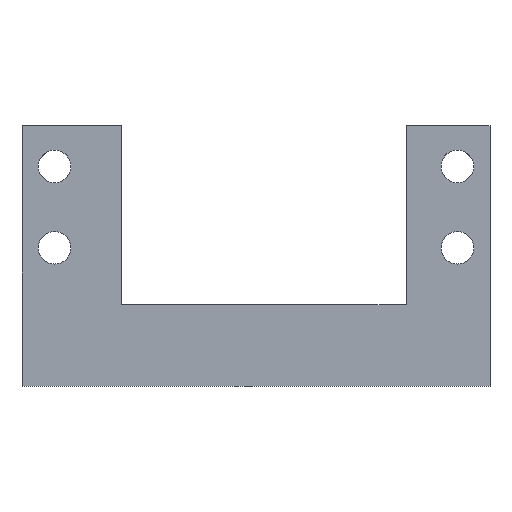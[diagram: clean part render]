
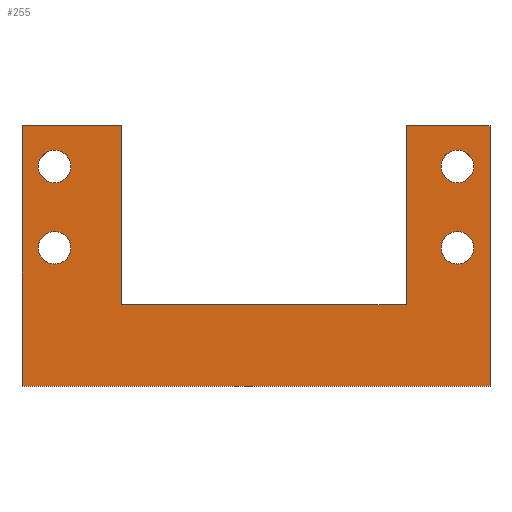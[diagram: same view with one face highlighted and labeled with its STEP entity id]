
A CAD part, top view. The second image highlights one B-rep face of the part: STEP entity #255.
In plain terms, the highlighted planar face has unit normal (0, 0, 1).
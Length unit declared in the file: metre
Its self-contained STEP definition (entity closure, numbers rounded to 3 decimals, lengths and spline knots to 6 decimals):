
#16=CIRCLE('',#283,0.002);
#17=CIRCLE('',#284,0.002);
#18=CIRCLE('',#285,0.002);
#19=CIRCLE('',#286,0.002);
#28=ORIENTED_EDGE('',*,*,#92,.F.);
#29=ORIENTED_EDGE('',*,*,#93,.F.);
#30=ORIENTED_EDGE('',*,*,#94,.T.);
#31=ORIENTED_EDGE('',*,*,#95,.T.);
#32=ORIENTED_EDGE('',*,*,#96,.F.);
#33=ORIENTED_EDGE('',*,*,#97,.T.);
#34=ORIENTED_EDGE('',*,*,#98,.F.);
#35=ORIENTED_EDGE('',*,*,#99,.T.);
#36=ORIENTED_EDGE('',*,*,#100,.T.);
#37=ORIENTED_EDGE('',*,*,#101,.F.);
#38=ORIENTED_EDGE('',*,*,#90,.F.);
#39=ORIENTED_EDGE('',*,*,#102,.T.);
#90=EDGE_CURVE('',#122,#123,#146,.T.);
#92=EDGE_CURVE('',#124,#124,#16,.T.);
#93=EDGE_CURVE('',#125,#125,#17,.T.);
#94=EDGE_CURVE('',#126,#126,#18,.T.);
#95=EDGE_CURVE('',#127,#127,#19,.T.);
#96=EDGE_CURVE('',#128,#129,#148,.T.);
#97=EDGE_CURVE('',#128,#130,#149,.T.);
#98=EDGE_CURVE('',#131,#130,#150,.T.);
#99=EDGE_CURVE('',#131,#132,#151,.T.);
#100=EDGE_CURVE('',#132,#133,#152,.T.);
#101=EDGE_CURVE('',#123,#133,#153,.T.);
#102=EDGE_CURVE('',#122,#129,#154,.T.);
#122=VERTEX_POINT('',#379);
#123=VERTEX_POINT('',#381);
#124=VERTEX_POINT('',#385);
#125=VERTEX_POINT('',#387);
#126=VERTEX_POINT('',#389);
#127=VERTEX_POINT('',#391);
#128=VERTEX_POINT('',#393);
#129=VERTEX_POINT('',#394);
#130=VERTEX_POINT('',#396);
#131=VERTEX_POINT('',#398);
#132=VERTEX_POINT('',#400);
#133=VERTEX_POINT('',#402);
#146=LINE('',#380,#170);
#148=LINE('',#392,#172);
#149=LINE('',#395,#173);
#150=LINE('',#397,#174);
#151=LINE('',#399,#175);
#152=LINE('',#401,#176);
#153=LINE('',#403,#177);
#154=LINE('',#404,#178);
#170=VECTOR('',#309,1.);
#172=VECTOR('',#321,1.);
#173=VECTOR('',#322,1.);
#174=VECTOR('',#323,1.);
#175=VECTOR('',#324,1.);
#176=VECTOR('',#325,1.);
#177=VECTOR('',#326,1.);
#178=VECTOR('',#327,1.);
#193=EDGE_LOOP('',(#28));
#194=EDGE_LOOP('',(#29));
#195=EDGE_LOOP('',(#30));
#196=EDGE_LOOP('',(#31));
#197=EDGE_LOOP('',(#32,#33,#34,#35,#36,#37,#38,#39));
#219=FACE_BOUND('',#193,.T.);
#220=FACE_BOUND('',#194,.T.);
#221=FACE_BOUND('',#195,.T.);
#222=FACE_BOUND('',#196,.T.);
#223=FACE_BOUND('',#197,.T.);
#245=PLANE('',#282);
#255=ADVANCED_FACE('',(#219,#220,#221,#222,#223),#245,.T.);
#282=AXIS2_PLACEMENT_3D('',#383,#311,#312);
#283=AXIS2_PLACEMENT_3D('',#384,#313,#314);
#284=AXIS2_PLACEMENT_3D('',#386,#315,#316);
#285=AXIS2_PLACEMENT_3D('',#388,#317,#318);
#286=AXIS2_PLACEMENT_3D('',#390,#319,#320);
#309=DIRECTION('',(1.,0.,0.));
#311=DIRECTION('',(0.,0.,1.));
#312=DIRECTION('',(1.,0.,0.));
#313=DIRECTION('',(0.,0.,1.));
#314=DIRECTION('',(1.,0.,0.));
#315=DIRECTION('',(0.,0.,1.));
#316=DIRECTION('',(1.,0.,0.));
#317=DIRECTION('',(0.,0.,-1.));
#318=DIRECTION('',(1.,0.,0.));
#319=DIRECTION('',(0.,0.,-1.));
#320=DIRECTION('',(1.,0.,0.));
#321=DIRECTION('',(1.,0.,0.));
#322=DIRECTION('',(0.,1.,0.));
#323=DIRECTION('',(1.,0.,0.));
#324=DIRECTION('',(0.,-1.,0.));
#325=DIRECTION('',(1.,0.,0.));
#326=DIRECTION('',(0.,-1.,0.));
#327=DIRECTION('',(0.,-1.,0.));
#379=CARTESIAN_POINT('',(0.01844,0.016,0.004));
#380=CARTESIAN_POINT('',(-0.02475,0.016,0.004));
#381=CARTESIAN_POINT('',(0.02875,0.016,0.004));
#383=CARTESIAN_POINT('',(0.,0.,0.004));
#384=CARTESIAN_POINT('',(-0.02475,0.011,0.004));
#385=CARTESIAN_POINT('',(-0.02275,0.011,0.004));
#386=CARTESIAN_POINT('',(-0.02475,0.001,0.004));
#387=CARTESIAN_POINT('',(-0.02275,0.001,0.004));
#388=CARTESIAN_POINT('',(0.02475,0.001,0.004));
#389=CARTESIAN_POINT('',(0.02675,0.001,0.004));
#390=CARTESIAN_POINT('',(0.02475,0.011,0.004));
#391=CARTESIAN_POINT('',(0.02675,0.011,0.004));
#392=CARTESIAN_POINT('',(0.00094,-0.006,0.004));
#393=CARTESIAN_POINT('',(-0.01656,-0.006,0.004));
#394=CARTESIAN_POINT('',(0.01844,-0.006,0.004));
#395=CARTESIAN_POINT('',(-0.01656,0.0135,0.004));
#396=CARTESIAN_POINT('',(-0.01656,0.016,0.004));
#397=CARTESIAN_POINT('',(-0.02475,0.016,0.004));
#398=CARTESIAN_POINT('',(-0.02875,0.016,0.004));
#399=CARTESIAN_POINT('',(-0.02875,0.,0.004));
#400=CARTESIAN_POINT('',(-0.02875,-0.016,0.004));
#401=CARTESIAN_POINT('',(0.,-0.016,0.004));
#402=CARTESIAN_POINT('',(0.02875,-0.016,0.004));
#403=CARTESIAN_POINT('',(0.02875,0.,0.004));
#404=CARTESIAN_POINT('',(0.01844,0.0025,0.004));
